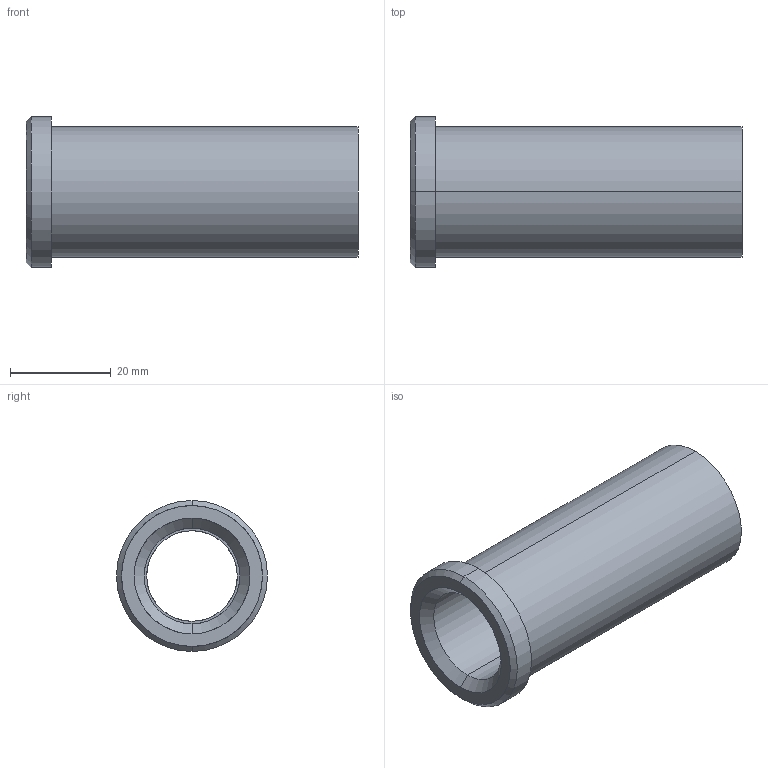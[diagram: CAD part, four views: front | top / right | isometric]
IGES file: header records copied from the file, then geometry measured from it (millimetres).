
Start section: START RECORD GO HERE.
Global section: file name: 353-18X66.igs; native system: DASSAULT SYSTEMES CATIA V5 R20 - www.3ds.com; preprocessor: CATIA Version 5 Release 20 ; author: Utente; organization: NB04-ASUS; date: 20210508.104110; units: millimetre
Bounding box: 66 x 30 x 30 mm (x, y, z)
Surface area: 10028.4 mm2 (no closed solid volume)
Topology: 0 solids, 0 shells, 18 faces, 116 edges, 116 vertices
Faces by surface type: revolution 14, plane 4
